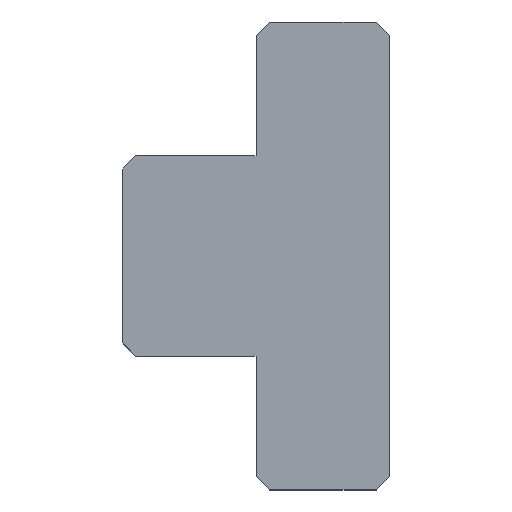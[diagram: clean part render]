
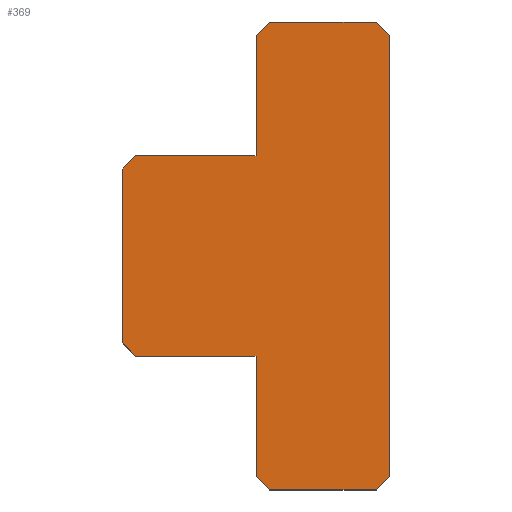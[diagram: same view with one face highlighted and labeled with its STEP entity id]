
A CAD part, top view. The second image highlights one B-rep face of the part: STEP entity #369.
In plain terms, the highlighted planar face has unit normal (0, 0, 1).
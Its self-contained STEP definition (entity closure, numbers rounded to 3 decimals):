
#134=CARTESIAN_POINT('Vertex',(26.178,16.5,10.5)) ;
#137=CARTESIAN_POINT('Line Origine',(26.178,0.,10.5)) ;
#141=CARTESIAN_POINT('Vertex',(26.178,-16.5,10.5)) ;
#240=CARTESIAN_POINT('Line Origine',(25.678,17.,10.5)) ;
#244=CARTESIAN_POINT('Vertex',(25.178,17.5,10.5)) ;
#266=CARTESIAN_POINT('Axis2P3D Location',(0.,0.,10.5)) ;
#271=CARTESIAN_POINT('Line Origine',(21.178,-17.5,10.5)) ;
#275=CARTESIAN_POINT('Vertex',(17.178,-17.5,10.5)) ;
#277=CARTESIAN_POINT('Vertex',(25.178,-17.5,10.5)) ;
#280=CARTESIAN_POINT('Line Origine',(25.678,-17.,10.5)) ;
#285=CARTESIAN_POINT('Line Origine',(21.178,17.5,10.5)) ;
#289=CARTESIAN_POINT('Vertex',(17.178,17.5,10.5)) ;
#292=CARTESIAN_POINT('Line Origine',(16.678,17.,10.5)) ;
#296=CARTESIAN_POINT('Vertex',(16.178,16.5,10.5)) ;
#299=CARTESIAN_POINT('Line Origine',(16.178,12.,10.5)) ;
#303=CARTESIAN_POINT('Vertex',(16.178,7.5,10.5)) ;
#306=CARTESIAN_POINT('Line Origine',(11.678,7.5,10.5)) ;
#310=CARTESIAN_POINT('Vertex',(7.178,7.5,10.5)) ;
#313=CARTESIAN_POINT('Line Origine',(6.678,7.,10.5)) ;
#317=CARTESIAN_POINT('Vertex',(6.178,6.5,10.5)) ;
#320=CARTESIAN_POINT('Line Origine',(6.178,0.,10.5)) ;
#324=CARTESIAN_POINT('Vertex',(6.178,-6.5,10.5)) ;
#327=CARTESIAN_POINT('Line Origine',(6.678,-7.,10.5)) ;
#331=CARTESIAN_POINT('Vertex',(7.178,-7.5,10.5)) ;
#334=CARTESIAN_POINT('Line Origine',(11.678,-7.5,10.5)) ;
#338=CARTESIAN_POINT('Vertex',(16.178,-7.5,10.5)) ;
#341=CARTESIAN_POINT('Line Origine',(16.178,-12.,10.5)) ;
#345=CARTESIAN_POINT('Vertex',(16.178,-16.5,10.5)) ;
#348=CARTESIAN_POINT('Line Origine',(16.678,-17.,10.5)) ;
#138=DIRECTION('Vector Direction',(0.,-1.,0.)) ;
#241=DIRECTION('Vector Direction',(0.707,-0.707,0.)) ;
#267=DIRECTION('Axis2P3D Direction',(0.,0.,1.)) ;
#268=DIRECTION('Axis2P3D XDirection',(1.,0.,0.)) ;
#272=DIRECTION('Vector Direction',(-1.,0.,0.)) ;
#281=DIRECTION('Vector Direction',(-0.707,-0.707,0.)) ;
#286=DIRECTION('Vector Direction',(1.,0.,0.)) ;
#293=DIRECTION('Vector Direction',(-0.707,-0.707,0.)) ;
#300=DIRECTION('Vector Direction',(0.,1.,0.)) ;
#307=DIRECTION('Vector Direction',(-1.,0.,0.)) ;
#314=DIRECTION('Vector Direction',(0.707,0.707,0.)) ;
#321=DIRECTION('Vector Direction',(0.,-1.,0.)) ;
#328=DIRECTION('Vector Direction',(0.707,-0.707,0.)) ;
#335=DIRECTION('Vector Direction',(-1.,0.,0.)) ;
#342=DIRECTION('Vector Direction',(0.,-1.,0.)) ;
#349=DIRECTION('Vector Direction',(-0.707,0.707,0.)) ;
#269=AXIS2_PLACEMENT_3D('Plane Axis2P3D',#266,#267,#268) ;
#354=ORIENTED_EDGE('',*,*,#279,.T.) ;
#355=ORIENTED_EDGE('',*,*,#284,.F.) ;
#356=ORIENTED_EDGE('',*,*,#143,.F.) ;
#357=ORIENTED_EDGE('',*,*,#246,.F.) ;
#358=ORIENTED_EDGE('',*,*,#291,.T.) ;
#359=ORIENTED_EDGE('',*,*,#298,.F.) ;
#360=ORIENTED_EDGE('',*,*,#305,.F.) ;
#361=ORIENTED_EDGE('',*,*,#312,.T.) ;
#362=ORIENTED_EDGE('',*,*,#319,.F.) ;
#363=ORIENTED_EDGE('',*,*,#326,.T.) ;
#364=ORIENTED_EDGE('',*,*,#333,.F.) ;
#365=ORIENTED_EDGE('',*,*,#340,.F.) ;
#366=ORIENTED_EDGE('',*,*,#347,.T.) ;
#367=ORIENTED_EDGE('',*,*,#352,.F.) ;
#139=VECTOR('Line Direction',#138,1.) ;
#242=VECTOR('Line Direction',#241,1.) ;
#273=VECTOR('Line Direction',#272,1.) ;
#282=VECTOR('Line Direction',#281,1.) ;
#287=VECTOR('Line Direction',#286,1.) ;
#294=VECTOR('Line Direction',#293,1.) ;
#301=VECTOR('Line Direction',#300,1.) ;
#308=VECTOR('Line Direction',#307,1.) ;
#315=VECTOR('Line Direction',#314,1.) ;
#322=VECTOR('Line Direction',#321,1.) ;
#329=VECTOR('Line Direction',#328,1.) ;
#336=VECTOR('Line Direction',#335,1.) ;
#343=VECTOR('Line Direction',#342,1.) ;
#350=VECTOR('Line Direction',#349,1.) ;
#369=ADVANCED_FACE('\X2\51E04F554F53\X0\.2',(#368),#270,.T.) ;
#143=EDGE_CURVE('',#135,#142,#140,.T.) ;
#246=EDGE_CURVE('',#245,#135,#243,.T.) ;
#279=EDGE_CURVE('',#276,#278,#274,.F.) ;
#284=EDGE_CURVE('',#142,#278,#283,.T.) ;
#291=EDGE_CURVE('',#245,#290,#288,.F.) ;
#298=EDGE_CURVE('',#297,#290,#295,.F.) ;
#305=EDGE_CURVE('',#304,#297,#302,.T.) ;
#312=EDGE_CURVE('',#304,#311,#309,.T.) ;
#319=EDGE_CURVE('',#318,#311,#316,.T.) ;
#326=EDGE_CURVE('',#318,#325,#323,.T.) ;
#333=EDGE_CURVE('',#332,#325,#330,.F.) ;
#340=EDGE_CURVE('',#339,#332,#337,.T.) ;
#347=EDGE_CURVE('',#339,#346,#344,.T.) ;
#352=EDGE_CURVE('',#276,#346,#351,.T.) ;
#353=EDGE_LOOP('',(#354,#355,#356,#357,#358,#359,#360,#361,#362,#363,#364,#365,#366,#367)) ;
#368=FACE_OUTER_BOUND('',#353,.T.) ;
#140=LINE('Line',#137,#139) ;
#243=LINE('Line',#240,#242) ;
#274=LINE('Line',#271,#273) ;
#283=LINE('Line',#280,#282) ;
#288=LINE('Line',#285,#287) ;
#295=LINE('Line',#292,#294) ;
#302=LINE('Line',#299,#301) ;
#309=LINE('Line',#306,#308) ;
#316=LINE('Line',#313,#315) ;
#323=LINE('Line',#320,#322) ;
#330=LINE('Line',#327,#329) ;
#337=LINE('Line',#334,#336) ;
#344=LINE('Line',#341,#343) ;
#351=LINE('Line',#348,#350) ;
#270=PLANE('Plane',#269) ;
#135=VERTEX_POINT('',#134) ;
#142=VERTEX_POINT('',#141) ;
#245=VERTEX_POINT('',#244) ;
#276=VERTEX_POINT('',#275) ;
#278=VERTEX_POINT('',#277) ;
#290=VERTEX_POINT('',#289) ;
#297=VERTEX_POINT('',#296) ;
#304=VERTEX_POINT('',#303) ;
#311=VERTEX_POINT('',#310) ;
#318=VERTEX_POINT('',#317) ;
#325=VERTEX_POINT('',#324) ;
#332=VERTEX_POINT('',#331) ;
#339=VERTEX_POINT('',#338) ;
#346=VERTEX_POINT('',#345) ;
